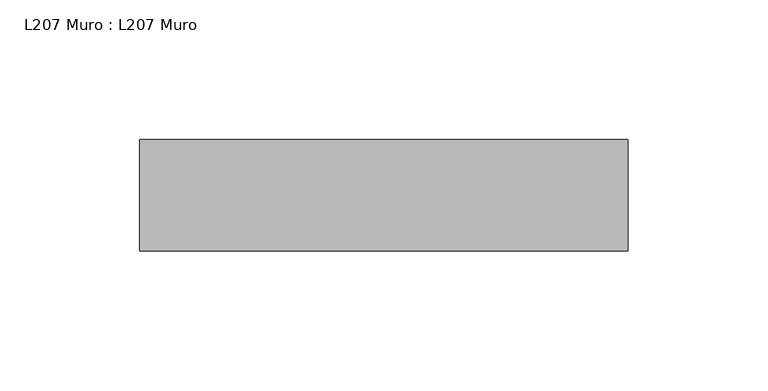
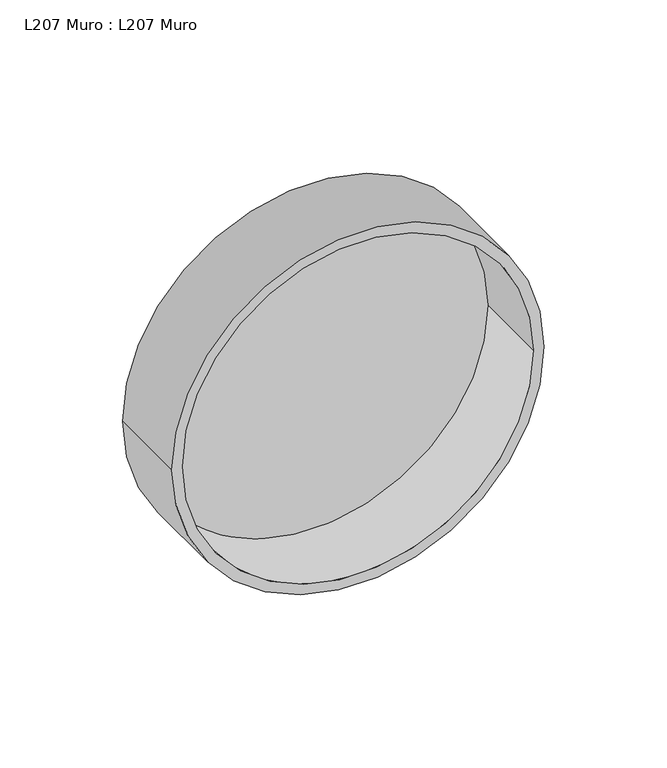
"""IFC4 building model written with IfcOpenShell, lengths in millimetres: light fixture geometry, L207 Muro : L207 Muro."""

from ifc_helpers import new_model, si_unit, point, frame, frame_2d, origin, place, context, project, spatial, circle_curve, trimmed, segment, composite_curve, outline, extrude, source, transform, mapped, element, save


def l207_muro_l207_muro_697710b7(model_context):
    return source(origin(), model_context, "Body", "SweptSolid", [
        extrude(outline(composite_curve([segment(trimmed(circle_curve(frame_2d((1920.0, 125.0)), 82.5), [point((1920.0, 42.5))], [point((1920.0, 207.5))], False, "CARTESIAN"), True, "CONTINUOUS"), segment(trimmed(circle_curve(frame_2d((1920.0, 125.0)), 82.5), [point((1920.0, 207.5))], [point((1920.0, 42.5))], False, "CARTESIAN"), True, "CONTINUOUS")], self_intersect=False)), frame((0.0, 202.0, 0.0), z_axis=(0.0, 1.0, 0.0), x_axis=(0.0, 0.0, 1.0)), (0.0, 0.0, 1.0), 3.0),
        extrude(outline(composite_curve([segment(trimmed(circle_curve(frame_2d((1920.0, 125.0)), 87.5), [point((1920.0, 212.5))], [point((1920.0, 37.5))], False, "CARTESIAN"), True, "CONTINUOUS"), segment(trimmed(circle_curve(frame_2d((1920.0, 125.0)), 87.5), [point((1920.0, 37.5))], [point((1920.0, 212.5))], False, "CARTESIAN"), True, "CONTINUOUS")], self_intersect=False), holes=[composite_curve([segment(trimmed(circle_curve(frame_2d((1920.0, 125.0)), 82.5), [point((1920.0, 207.5))], [point((1920.0, 42.5))], True, "CARTESIAN"), True, "CONTINUOUS"), segment(trimmed(circle_curve(frame_2d((1920.0, 125.0)), 82.5), [point((1920.0, 42.5))], [point((1920.0, 207.5))], True, "CARTESIAN"), True, "CONTINUOUS")], self_intersect=False)]), frame((0.0, 165.0, 0.0), z_axis=(0.0, 1.0, 0.0), x_axis=(0.0, 0.0, 1.0)), (0.0, 0.0, 1.0), 40.0),
    ])


if __name__ == "__main__":
    model = new_model("IFC4")
    model_context = context("Model", 3, world=origin())
    ifc_project = project(units=[si_unit("LENGTHUNIT", "METRE", prefix="MILLI")], contexts=[model_context])
    site = spatial("IfcSite", under=ifc_project)
    building = spatial("IfcBuilding", under=site)
    placement = place(None, origin())
    l207_muro_l207_muro_shape = l207_muro_l207_muro_697710b7(model_context)
    element("IfcLightFixture", 1, ObjectType="L207 Muro : L207 Muro", at=placement, inside=building, context=model_context, shape_type="MappedRepresentation", body=[
        mapped(l207_muro_l207_muro_shape, transform((0.0, 0.0, 0.0), x_axis=(1.0, 0.0, 0.0), y_axis=(0.0, 1.0, 0.0), z_axis=(0.0, 0.0, 1.0))),
    ])
    save(model, "model.ifc")
